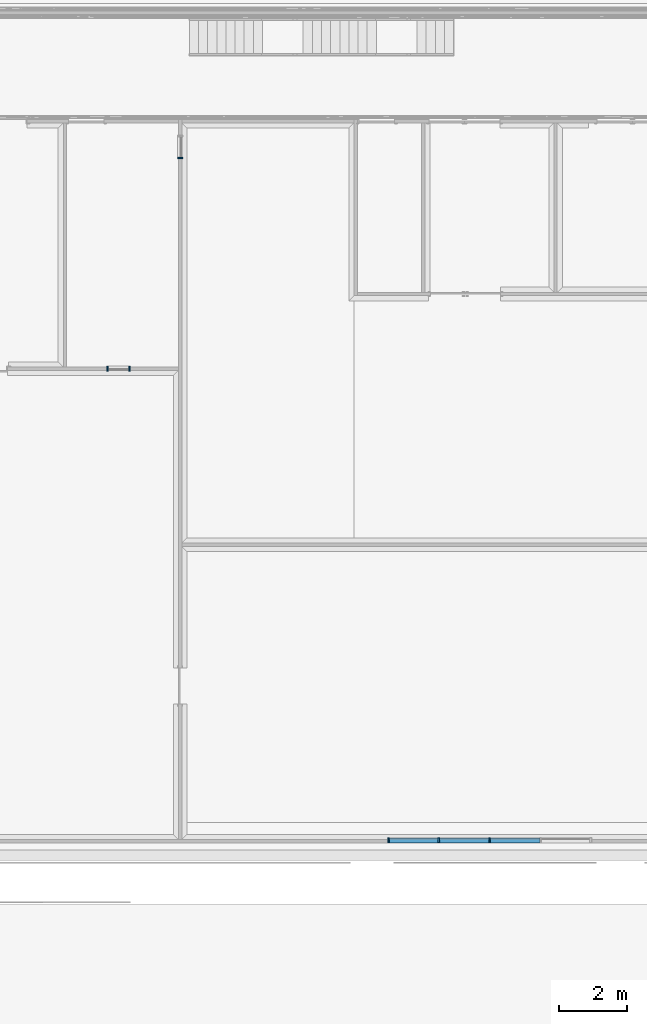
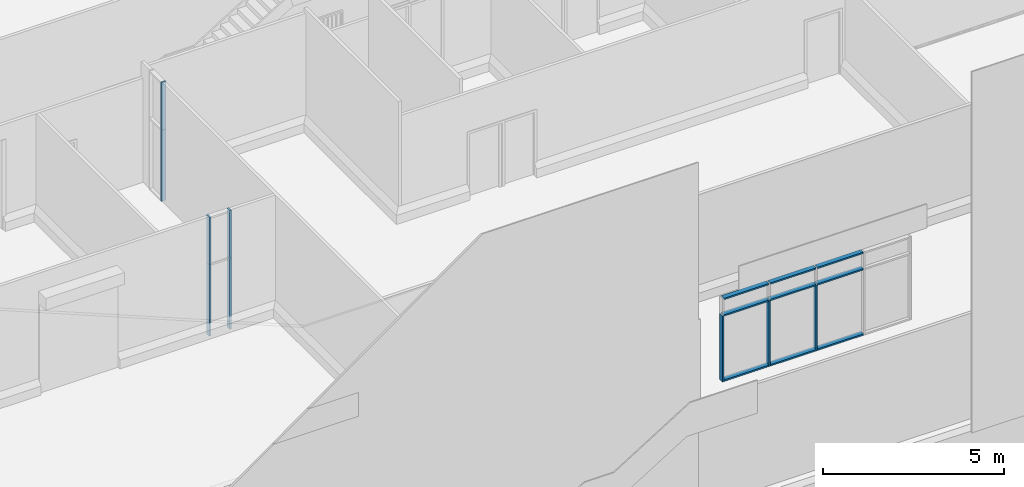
# One storey, part 3 of 64: 18 members, 3 elements without a shape of their own.
"""IFC2X3 building model written with IfcOpenShell, lengths in millimetres."""

from ifc_helpers import new_model, entity, si_unit, converted_unit, derived_unit, direction, frame, frame_2d, origin, place, context, subcontext, project, spatial, rectangle, extrude, material, type_object, element, aggregate, save


model = new_model("IFC2X3")

# Units and contexts
model_context = context("Model", 3, precision=0.01, world=origin(), true_north=direction((4.05803320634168e-15, -1.0)))
body_context = subcontext(model_context, "Body", "Model", "MODEL_VIEW")
ifc_project = project(units=[si_unit("LENGTHUNIT", "METRE", prefix="MILLI"), si_unit("AREAUNIT", "SQUARE_METRE"), si_unit("VOLUMEUNIT", "CUBIC_METRE"), converted_unit("PLANEANGLEUNIT", "DEGREE", entity("IfcRatioMeasure", 0.0174532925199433), si_unit("PLANEANGLEUNIT", "RADIAN"), dimensions=[0, 0, 0, 0, 0, 0, 0]), si_unit("MASSUNIT", "GRAM", prefix="KILO"), derived_unit("MASSDENSITYUNIT", [(si_unit("MASSUNIT", "GRAM", prefix="KILO"), 1), (si_unit("LENGTHUNIT", "METRE"), -3)]), si_unit("TIMEUNIT", "SECOND"), si_unit("FREQUENCYUNIT", "HERTZ"), si_unit("THERMODYNAMICTEMPERATUREUNIT", "DEGREE_CELSIUS"), derived_unit("THERMALTRANSMITTANCEUNIT", [(si_unit("MASSUNIT", "GRAM", prefix="KILO"), 1), (si_unit("THERMODYNAMICTEMPERATUREUNIT", "KELVIN"), -1), (si_unit("TIMEUNIT", "SECOND"), -3)]), derived_unit("VOLUMETRICFLOWRATEUNIT", [(si_unit("LENGTHUNIT", "METRE"), 3), (si_unit("TIMEUNIT", "SECOND"), -1)]), si_unit("ELECTRICCURRENTUNIT", "AMPERE"), si_unit("ELECTRICVOLTAGEUNIT", "VOLT"), si_unit("POWERUNIT", "WATT"), si_unit("FORCEUNIT", "NEWTON", prefix="KILO"), si_unit("ILLUMINANCEUNIT", "LUX"), si_unit("LUMINOUSFLUXUNIT", "LUMEN"), si_unit("LUMINOUSINTENSITYUNIT", "CANDELA"), derived_unit("USERDEFINED", [(si_unit("MASSUNIT", "GRAM", prefix="KILO"), -1), (si_unit("LENGTHUNIT", "METRE"), -2), (si_unit("TIMEUNIT", "SECOND"), 3), (si_unit("LUMINOUSFLUXUNIT", "LUMEN"), 1)]), derived_unit("LINEARVELOCITYUNIT", [(si_unit("LENGTHUNIT", "METRE"), 1), (si_unit("TIMEUNIT", "SECOND"), -1)]), si_unit("PRESSUREUNIT", "PASCAL"), derived_unit("USERDEFINED", [(si_unit("LENGTHUNIT", "METRE"), -2), (si_unit("MASSUNIT", "GRAM", prefix="KILO"), 1), (si_unit("TIMEUNIT", "SECOND"), -2)])], contexts=[model_context])

# Site, building, storey
site_placement = place(None, frame((927466.849349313, 583801.882853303, 0.0), z_axis=(0.0, 0.0, 1.0), x_axis=(-1.0, 0.0, 0.0)))
site = spatial("IfcSite", under=ifc_project, at=site_placement, Name="Surface", CompositionType="ELEMENT")
building_placement = place(site_placement, origin())
building = spatial("IfcBuilding", under=site, at=building_placement, CompositionType="ELEMENT")
storey_placement = place(building_placement, frame((0.0, 0.0, 44170.0)))
storey = spatial("IfcBuildingStorey", under=building, at=storey_placement, Name="Ground FFL", CompositionType="ELEMENT", Elevation=44170.0)

# Curtain wall, members
curtain_wall_type = type_object("IfcCurtainWallType", Name="Curtain Wall:Storefront", PredefinedType="NOTDEFINED")
curtain_wall_1_placement = place(storey_placement, frame((0.0, 0.0, -44170.0)))
curtain_wall_1 = element("IfcCurtainWall", 1, at=curtain_wall_1_placement, inside=storey, type_object=curtain_wall_type, Name="Curtain Wall:Storefront", ObjectType="Curtain Wall:Storefront")
ifc_material = material(Name="Aluminium")
member_1_placement = place(curtain_wall_1_placement, frame((0.0, 0.0, 44170.0)))
member_1 = element("IfcMember", 2, at=member_1_placement, material=ifc_material, Name="Curtain Wall:Storefront:8486", ObjectType="Curtain Wall:Storefront:8486", context=body_context, shape_type="SweptSolid", body=[
    extrude(rectangle(XDim=49.9999999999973, YDim=150.000000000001, at=frame_2d((-4.33075797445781e-12, 8.66151594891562e-12), x_axis=(1.0, 0.0))), frame((-111072.690572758, 36380.9699019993, 4025.0), z_axis=(-1.0, 0.0, 0.0), x_axis=(0.0, 0.0, -1.0)), (0.0, 0.0, 1.0), 1429.81862789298),
])
member_2_placement = place(curtain_wall_1_placement, frame((0.0, 0.0, 44170.0)))
member_2 = element("IfcMember", 3, at=member_2_placement, material=ifc_material, Name="Curtain Wall:Storefront:8486", ObjectType="Curtain Wall:Storefront:8486", context=body_context, shape_type="SweptSolid", body=[
    extrude(rectangle(XDim=49.9999999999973, YDim=150.000000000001, at=frame_2d((4.33075797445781e-12, 8.66151594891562e-12), x_axis=(1.0, 0.0))), frame((-112502.509200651, 36380.9699019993, 6775.0), z_axis=(1.0, 0.0, 0.0), x_axis=(0.0, 0.0, -1.0)), (0.0, 0.0, 1.0), 1429.81862789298),
])
member_3_placement = place(curtain_wall_1_placement, frame((0.0, 0.0, 44170.0)))
member_3 = element("IfcMember", 4, at=member_3_placement, material=ifc_material, Name="Curtain Wall:Storefront:8486", ObjectType="Curtain Wall:Storefront:8486", context=body_context, shape_type="SweptSolid", body=[
    extrude(rectangle(XDim=49.9999999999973, YDim=150.000000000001, at=frame_2d((4.33075797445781e-12, 8.66151594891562e-12), x_axis=(1.0, 0.0))), frame((-114007.327828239, 36380.9699019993, 6775.0), z_axis=(1.0, 0.0, 0.0), x_axis=(0.0, 0.0, -1.0)), (0.0, 0.0, 1.0), 1454.81862758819),
])
member_4_placement = place(curtain_wall_1_placement, frame((0.0, 0.0, 44170.0)))
member_4 = element("IfcMember", 5, at=member_4_placement, material=ifc_material, Name="Curtain Wall:Storefront:8486", ObjectType="Curtain Wall:Storefront:8486", context=body_context, shape_type="SweptSolid", body=[
    extrude(rectangle(XDim=49.9999999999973, YDim=150.000000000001, at=frame_2d((4.33075797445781e-12, 1.29958266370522e-11), x_axis=(1.0, 0.0))), frame((-115512.146455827, 36380.9699019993, 6775.0), z_axis=(1.0, 0.0, 0.0), x_axis=(0.0, 0.0, -1.0)), (0.0, 0.0, 1.0), 1454.81862758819),
])
member_5_placement = place(curtain_wall_1_placement, frame((0.0, 0.0, 44170.0)))
member_5 = element("IfcMember", 6, at=member_5_placement, material=ifc_material, Name="Curtain Wall:Storefront:8486", ObjectType="Curtain Wall:Storefront:8486", context=body_context, shape_type="SweptSolid", body=[
    extrude(rectangle(XDim=49.9999999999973, YDim=150.000000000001, at=frame_2d((-4.33075797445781e-12, 8.66151594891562e-12), x_axis=(1.0, 0.0))), frame((-112552.509200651, 36380.9699019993, 4025.0), z_axis=(-1.0, 0.0, 0.0), x_axis=(0.0, 0.0, -1.0)), (0.0, 0.0, 1.0), 1454.81862758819),
])
member_6_placement = place(curtain_wall_1_placement, frame((0.0, 0.0, 44170.0)))
member_6 = element("IfcMember", 7, at=member_6_placement, material=ifc_material, Name="Curtain Wall:Storefront:8486", ObjectType="Curtain Wall:Storefront:8486", context=body_context, shape_type="SweptSolid", body=[
    extrude(rectangle(XDim=49.9999999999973, YDim=150.000000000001, at=frame_2d((-4.33075797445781e-12, 1.29958266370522e-11), x_axis=(1.0, 0.0))), frame((-114057.327828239, 36380.9699019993, 4025.0), z_axis=(-1.0, 0.0, 0.0), x_axis=(0.0, 0.0, -1.0)), (0.0, 0.0, 1.0), 1454.81862758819),
])
member_7_placement = place(curtain_wall_1_placement, frame((0.0, 0.0, 44170.0)))
member_7 = element("IfcMember", 8, at=member_7_placement, material=ifc_material, Name="Curtain Wall:Storefront:8486", ObjectType="Curtain Wall:Storefront:8486", context=body_context, shape_type="SweptSolid", body=[
    extrude(rectangle(XDim=49.9999999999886, YDim=150.000000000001, at=frame_2d((-1.732658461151e-11, 0.0), x_axis=(1.0, 0.0))), frame((-112527.509200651, 36380.9699019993, 4000.0), z_axis=(0.0, 0.0, 1.0), x_axis=(-1.0, 0.0, 0.0)), (0.0, 0.0, 1.0), 2220.0),
])
member_8_placement = place(curtain_wall_1_placement, frame((0.0, 0.0, 44170.0)))
member_8 = element("IfcMember", 9, at=member_8_placement, material=ifc_material, Name="Curtain Wall:Storefront:8486", ObjectType="Curtain Wall:Storefront:8486", context=body_context, shape_type="SweptSolid", body=[
    extrude(rectangle(XDim=49.9999999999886, YDim=150.000000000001, at=frame_2d((1.732658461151e-11, 0.0), x_axis=(1.0, 0.0))), frame((-114032.327828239, 36380.9699019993, 4000.0), z_axis=(0.0, 0.0, 1.0), x_axis=(-1.0, 0.0, 0.0)), (0.0, 0.0, 1.0), 2220.0),
])
member_9_placement = place(curtain_wall_1_placement, frame((0.0, 0.0, 44170.0)))
member_9 = element("IfcMember", 10, at=member_9_placement, material=ifc_material, Name="Curtain Wall:Storefront:8486", ObjectType="Curtain Wall:Storefront:8486", context=body_context, shape_type="SweptSolid", body=[
    extrude(rectangle(XDim=50.000000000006, YDim=150.000000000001, at=frame_2d((-8.66329230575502e-12, 0.0), x_axis=(1.0, 0.0))), frame((-111047.690572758, 36380.9699019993, 6220.0), z_axis=(0.0, 0.0, -1.0), x_axis=(-1.0, 0.0, 0.0)), (0.0, 0.0, 1.0), 2220.0),
])
member_10_placement = place(curtain_wall_1_placement, frame((0.0, 0.0, 44170.0)))
member_10 = element("IfcMember", 11, at=member_10_placement, material=ifc_material, Name="Curtain Wall:Storefront:8486", ObjectType="Curtain Wall:Storefront:8486", context=body_context, shape_type="SweptSolid", body=[
    extrude(rectangle(XDim=50.000000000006, YDim=150.000000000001, at=frame_2d((0.0, 8.66151594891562e-12), x_axis=(1.0, 0.0))), frame((-112502.509200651, 36380.9699019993, 6220.0), z_axis=(1.0, 0.0, 0.0), x_axis=(0.0, 0.0, -1.0)), (0.0, 0.0, 1.0), 1429.81862789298),
])
member_11_placement = place(curtain_wall_1_placement, frame((0.0, 0.0, 44170.0)))
member_11 = element("IfcMember", 12, at=member_11_placement, material=ifc_material, Name="Curtain Wall:Storefront:8486", ObjectType="Curtain Wall:Storefront:8486", context=body_context, shape_type="SweptSolid", body=[
    extrude(rectangle(XDim=50.000000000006, YDim=150.000000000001, at=frame_2d((0.0, 8.66151594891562e-12), x_axis=(1.0, 0.0))), frame((-114007.327828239, 36380.9699019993, 6220.0), z_axis=(1.0, 0.0, 0.0), x_axis=(0.0, 0.0, -1.0)), (0.0, 0.0, 1.0), 1454.81862758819),
])
member_12_placement = place(curtain_wall_1_placement, frame((0.0, 0.0, 44170.0)))
member_12 = element("IfcMember", 13, at=member_12_placement, material=ifc_material, Name="Curtain Wall:Storefront:8486", ObjectType="Curtain Wall:Storefront:8486", context=body_context, shape_type="SweptSolid", body=[
    extrude(rectangle(XDim=50.000000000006, YDim=150.000000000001, at=frame_2d((0.0, 1.29958266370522e-11), x_axis=(1.0, 0.0))), frame((-115512.146455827, 36380.9699019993, 6220.0), z_axis=(1.0, 0.0, 0.0), x_axis=(0.0, 0.0, -1.0)), (0.0, 0.0, 1.0), 1454.81862758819),
])
aggregate(curtain_wall_1, [member_1, member_2, member_3, member_4, member_5, member_6, member_7, member_8, member_9, member_10, member_11, member_12])

curtain_wall_2_placement = place(storey_placement, frame((0.0, 0.0, -44170.0)))
curtain_wall_2 = element("IfcCurtainWall", 14, at=curtain_wall_2_placement, inside=storey, type_object=curtain_wall_type, Name="Curtain Wall:Storefront", ObjectType="Curtain Wall:Storefront")
member_13_placement = place(curtain_wall_2_placement, frame((0.0, 0.0, 44170.0)))
member_13 = element("IfcMember", 15, at=member_13_placement, material=ifc_material, Name="Curtain Wall:Storefront:8486", ObjectType="Curtain Wall:Storefront:8486", context=body_context, shape_type="SweptSolid", body=[
    extrude(rectangle(XDim=50.000000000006, YDim=150.000000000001, at=frame_2d((8.66329230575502e-12, 0.0), x_axis=(1.0, 0.0))), frame((-102752.937276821, 22457.470326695, 0.0), z_axis=(0.0, 0.0, 1.0), x_axis=(-1.0, 0.0, 0.0)), (0.0, 0.0, 1.0), 2400.0),
])
member_14_placement = place(curtain_wall_2_placement, frame((0.0, 0.0, 44170.0)))
member_14 = element("IfcMember", 16, at=member_14_placement, material=ifc_material, Name="Curtain Wall:Storefront:8486", ObjectType="Curtain Wall:Storefront:8486", context=body_context, shape_type="SweptSolid", body=[
    extrude(rectangle(XDim=50.000000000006, YDim=150.000000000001, at=frame_2d((8.66329230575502e-12, 0.0), x_axis=(1.0, 0.0))), frame((-102752.937276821, 22457.470326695, 2400.0), z_axis=(0.0, 0.0, 1.0), x_axis=(-1.0, 0.0, 0.0)), (0.0, 0.0, 1.0), 1600.0),
])
member_15_placement = place(curtain_wall_2_placement, frame((0.0, 0.0, 44170.0)))
member_15 = element("IfcMember", 17, at=member_15_placement, material=ifc_material, Name="Curtain Wall:Storefront:8486", ObjectType="Curtain Wall:Storefront:8486", context=body_context, shape_type="SweptSolid", body=[
    extrude(rectangle(XDim=50.000000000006, YDim=150.000000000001, at=frame_2d((-8.66329230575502e-12, 0.0), x_axis=(1.0, 0.0))), frame((-103402.937276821, 22457.470326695, 4000.0), z_axis=(0.0, 0.0, -1.0), x_axis=(-1.0, 0.0, 0.0)), (0.0, 0.0, 1.0), 1600.0),
])
member_16_placement = place(curtain_wall_2_placement, frame((0.0, 0.0, 44170.0)))
member_16 = element("IfcMember", 18, at=member_16_placement, material=ifc_material, Name="Curtain Wall:Storefront:8486", ObjectType="Curtain Wall:Storefront:8486", context=body_context, shape_type="SweptSolid", body=[
    extrude(rectangle(XDim=50.000000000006, YDim=150.000000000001, at=frame_2d((-8.66329230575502e-12, 0.0), x_axis=(1.0, 0.0))), frame((-103402.937276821, 22457.470326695, 2400.0), z_axis=(0.0, 0.0, -1.0), x_axis=(-1.0, 0.0, 0.0)), (0.0, 0.0, 1.0), 2400.0),
])
aggregate(curtain_wall_2, [member_13, member_14, member_15, member_16])

curtain_wall_3_placement = place(storey_placement, frame((0.0, 0.0, -44170.0)))
curtain_wall_3 = element("IfcCurtainWall", 19, at=curtain_wall_3_placement, inside=storey, type_object=curtain_wall_type, Name="Curtain Wall:Storefront", ObjectType="Curtain Wall:Storefront")
member_17_placement = place(curtain_wall_3_placement, frame((0.0, 0.0, 44170.0)))
member_17 = element("IfcMember", 20, at=member_17_placement, material=ifc_material, Name="Curtain Wall:Storefront:8486", ObjectType="Curtain Wall:Storefront:8486", context=body_context, shape_type="SweptSolid", body=[
    extrude(rectangle(XDim=150.000000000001, YDim=49.9999999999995, at=frame_2d((0.0, 1.08357767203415e-12), x_axis=(1.0, 0.0))), frame((-104897.937276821, 16242.4703266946, 0.0), z_axis=(0.0, 0.0, 1.0), x_axis=(-1.0, 0.0, 0.0)), (0.0, 0.0, 1.0), 2400.0),
])
member_18_placement = place(curtain_wall_3_placement, frame((0.0, 0.0, 44170.0)))
member_18 = element("IfcMember", 21, at=member_18_placement, material=ifc_material, Name="Curtain Wall:Storefront:8486", ObjectType="Curtain Wall:Storefront:8486", context=body_context, shape_type="SweptSolid", body=[
    extrude(rectangle(XDim=150.000000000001, YDim=49.9999999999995, at=frame_2d((0.0, 1.08357767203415e-12), x_axis=(1.0, 0.0))), frame((-104897.937276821, 16242.4703266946, 2400.0), z_axis=(0.0, 0.0, 1.0), x_axis=(-1.0, 0.0, 0.0)), (0.0, 0.0, 1.0), 1600.0),
])
aggregate(curtain_wall_3, [member_17, member_18])

save(model, "model.ifc")
